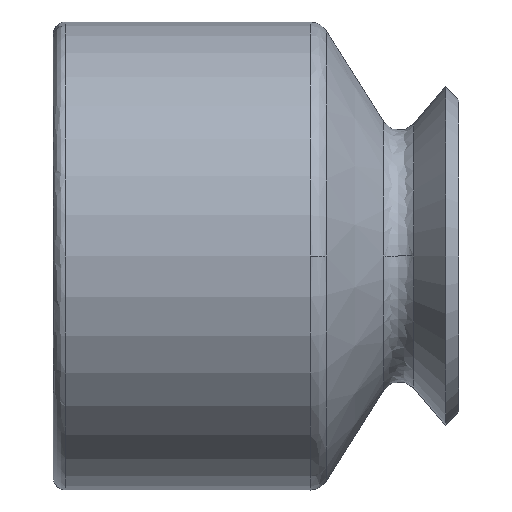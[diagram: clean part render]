
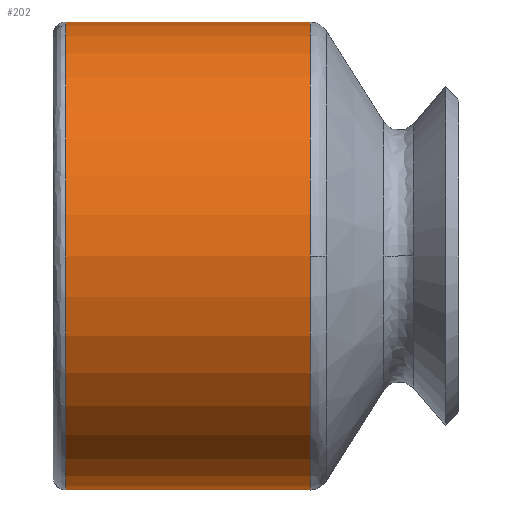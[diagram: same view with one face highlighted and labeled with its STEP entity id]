
A CAD part, left-side view. The second image highlights one B-rep face of the part: STEP entity #202.
In plain terms, the highlighted cylindrical face has radius 3.75 mm (diameter 7.5 mm), a partial arc.
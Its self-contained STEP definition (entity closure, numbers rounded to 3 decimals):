
#32 = VERTEX_POINT ( 'NONE', #906 ) ;
#50 = VERTEX_POINT ( 'NONE', #666 ) ;
#51 = ORIENTED_EDGE ( 'NONE', *, *, #1017, .F. ) ;
#67 = VERTEX_POINT ( 'NONE', #1549 ) ;
#80 = DIRECTION ( 'NONE',  ( 0., 1., 0. ) ) ;
#157 = DIRECTION ( 'NONE',  ( 0., 0., -1. ) ) ;
#173 = EDGE_LOOP ( 'NONE', ( #407, #51, #398, #1108, #1359 ) ) ;
#200 = CARTESIAN_POINT ( 'NONE',  ( 0., -0.2, -3.75 ) ) ;
#202 = ADVANCED_FACE ( 'NONE', ( #848 ), #840, .T. ) ;
#335 = CARTESIAN_POINT ( 'NONE',  ( 0., -4.12, 0. ) ) ;
#391 = EDGE_CURVE ( 'NONE', #50, #32, #1260, .T. ) ;
#398 = ORIENTED_EDGE ( 'NONE', *, *, #391, .F. ) ;
#407 = ORIENTED_EDGE ( 'NONE', *, *, #1502, .F. ) ;
#515 = AXIS2_PLACEMENT_3D ( 'NONE', #757, #1250, #1143 ) ;
#521 = DIRECTION ( 'NONE',  ( 0., -1., 0. ) ) ;
#566 = AXIS2_PLACEMENT_3D ( 'NONE', #1505, #521, #1486 ) ;
#580 = LINE ( 'NONE', #686, #1058 ) ;
#624 = DIRECTION ( 'NONE',  ( 0., -1., 0. ) ) ;
#652 = EDGE_CURVE ( 'NONE', #846, #660, #872, .T. ) ;
#660 = VERTEX_POINT ( 'NONE', #1277 ) ;
#666 = CARTESIAN_POINT ( 'NONE',  ( 0., -4.12, 3.75 ) ) ;
#686 = CARTESIAN_POINT ( 'NONE',  ( 0., -4.12, 3.75 ) ) ;
#731 = LINE ( 'NONE', #1213, #1577 ) ;
#757 = CARTESIAN_POINT ( 'NONE',  ( 0., -0.2, 0. ) ) ;
#840 = CYLINDRICAL_SURFACE ( 'NONE', #1208, 3.75 ) ;
#846 = VERTEX_POINT ( 'NONE', #200 ) ;
#848 = FACE_OUTER_BOUND ( 'NONE', #173, .T. ) ;
#872 = CIRCLE ( 'NONE', #515, 3.75 ) ;
#906 = CARTESIAN_POINT ( 'NONE',  ( -3.75, -4.12, 0. ) ) ;
#972 = DIRECTION ( 'NONE',  ( 0., 1., 0. ) ) ;
#983 = CIRCLE ( 'NONE', #1165, 3.75 ) ;
#1017 = EDGE_CURVE ( 'NONE', #32, #67, #983, .T. ) ;
#1058 = VECTOR ( 'NONE', #80, 1000. ) ;
#1088 = DIRECTION ( 'NONE',  ( 0., 1., 0. ) ) ;
#1108 = ORIENTED_EDGE ( 'NONE', *, *, #1344, .T. ) ;
#1143 = DIRECTION ( 'NONE',  ( -1., 0., 0. ) ) ;
#1165 = AXIS2_PLACEMENT_3D ( 'NONE', #1249, #624, #157 ) ;
#1208 = AXIS2_PLACEMENT_3D ( 'NONE', #335, #1088, #1467 ) ;
#1213 = CARTESIAN_POINT ( 'NONE',  ( 0., -4.12, -3.75 ) ) ;
#1249 = CARTESIAN_POINT ( 'NONE',  ( 0., -4.12, 0. ) ) ;
#1250 = DIRECTION ( 'NONE',  ( 0., 1., 0. ) ) ;
#1260 = CIRCLE ( 'NONE', #566, 3.75 ) ;
#1277 = CARTESIAN_POINT ( 'NONE',  ( 0., -0.2, 3.75 ) ) ;
#1344 = EDGE_CURVE ( 'NONE', #50, #660, #580, .T. ) ;
#1359 = ORIENTED_EDGE ( 'NONE', *, *, #652, .F. ) ;
#1467 = DIRECTION ( 'NONE',  ( 0., 0., 1. ) ) ;
#1486 = DIRECTION ( 'NONE',  ( 0., 0., -1. ) ) ;
#1502 = EDGE_CURVE ( 'NONE', #67, #846, #731, .T. ) ;
#1505 = CARTESIAN_POINT ( 'NONE',  ( 0., -4.12, 0. ) ) ;
#1549 = CARTESIAN_POINT ( 'NONE',  ( 0., -4.12, -3.75 ) ) ;
#1577 = VECTOR ( 'NONE', #972, 1000. ) ;
